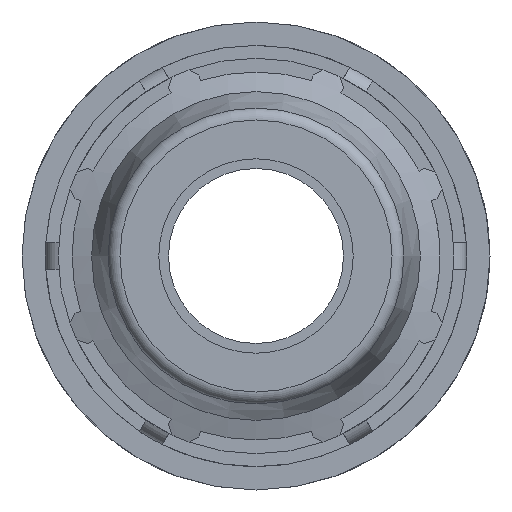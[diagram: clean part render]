
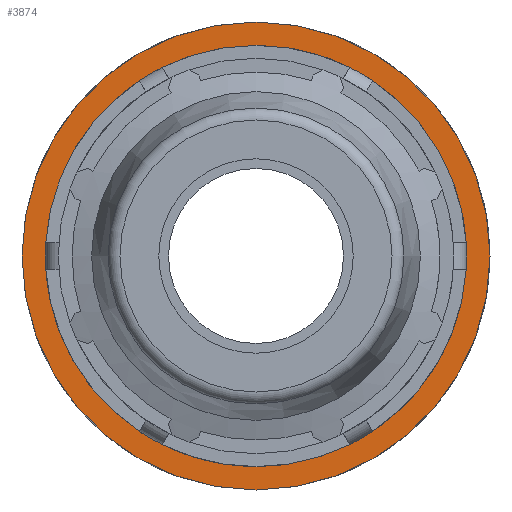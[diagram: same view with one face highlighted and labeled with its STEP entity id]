
A CAD part, left-side view. The second image highlights one B-rep face of the part: STEP entity #3874.
In plain terms, the highlighted planar face has unit normal (-1, 0, 0).
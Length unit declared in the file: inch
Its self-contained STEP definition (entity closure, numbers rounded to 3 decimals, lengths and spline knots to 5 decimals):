
#48=FACE_BOUND('',#530,.T.);
#334=FACE_OUTER_BOUND('',#529,.T.);
#529=EDGE_LOOP('',(#3168,#3169));
#530=EDGE_LOOP('',(#3170,#3171));
#607=CIRCLE('',#4005,1.26);
#608=CIRCLE('',#4006,1.26);
#734=CIRCLE('',#4251,1.008);
#735=CIRCLE('',#4252,1.008);
#1472=VERTEX_POINT('',#5677);
#1473=VERTEX_POINT('',#5679);
#1700=VERTEX_POINT('',#6688);
#1701=VERTEX_POINT('',#6689);
#1878=EDGE_CURVE('',#1472,#1473,#607,.T.);
#1879=EDGE_CURVE('',#1473,#1472,#608,.T.);
#2233=EDGE_CURVE('',#1700,#1701,#734,.T.);
#2234=EDGE_CURVE('',#1701,#1700,#735,.T.);
#3168=ORIENTED_EDGE('',*,*,#1879,.F.);
#3169=ORIENTED_EDGE('',*,*,#1878,.F.);
#3170=ORIENTED_EDGE('',*,*,#2233,.T.);
#3171=ORIENTED_EDGE('',*,*,#2234,.T.);
#3509=PLANE('',#4250);
#3874=ADVANCED_FACE('',(#334,#48),#3509,.T.);
#4005=AXIS2_PLACEMENT_3D('',#5680,#4559,#4560);
#4006=AXIS2_PLACEMENT_3D('',#5681,#4561,#4562);
#4250=AXIS2_PLACEMENT_3D('',#6687,#5213,#5214);
#4251=AXIS2_PLACEMENT_3D('',#6690,#5215,#5216);
#4252=AXIS2_PLACEMENT_3D('',#6691,#5217,#5218);
#4559=DIRECTION('center_axis',(1.,0.,0.));
#4560=DIRECTION('ref_axis',(0.,0.,-1.));
#4561=DIRECTION('center_axis',(1.,0.,0.));
#4562=DIRECTION('ref_axis',(0.,0.,-1.));
#5213=DIRECTION('center_axis',(-1.,0.,0.));
#5214=DIRECTION('ref_axis',(0.,0.,1.));
#5215=DIRECTION('center_axis',(1.,0.,0.));
#5216=DIRECTION('ref_axis',(0.,0.,-1.));
#5217=DIRECTION('center_axis',(1.,0.,0.));
#5218=DIRECTION('ref_axis',(0.,0.,-1.));
#5677=CARTESIAN_POINT('',(1.10083,-1.26,0.));
#5679=CARTESIAN_POINT('',(1.10083,0.,1.26));
#5680=CARTESIAN_POINT('Origin',(1.10083,0.,0.));
#5681=CARTESIAN_POINT('Origin',(1.10083,0.,0.));
#6687=CARTESIAN_POINT('Origin',(1.10083,1.26,0.));
#6688=CARTESIAN_POINT('',(1.10083,1.008,0.));
#6689=CARTESIAN_POINT('',(1.10083,-1.008,0.));
#6690=CARTESIAN_POINT('Origin',(1.10083,0.,0.));
#6691=CARTESIAN_POINT('Origin',(1.10083,0.,0.));
